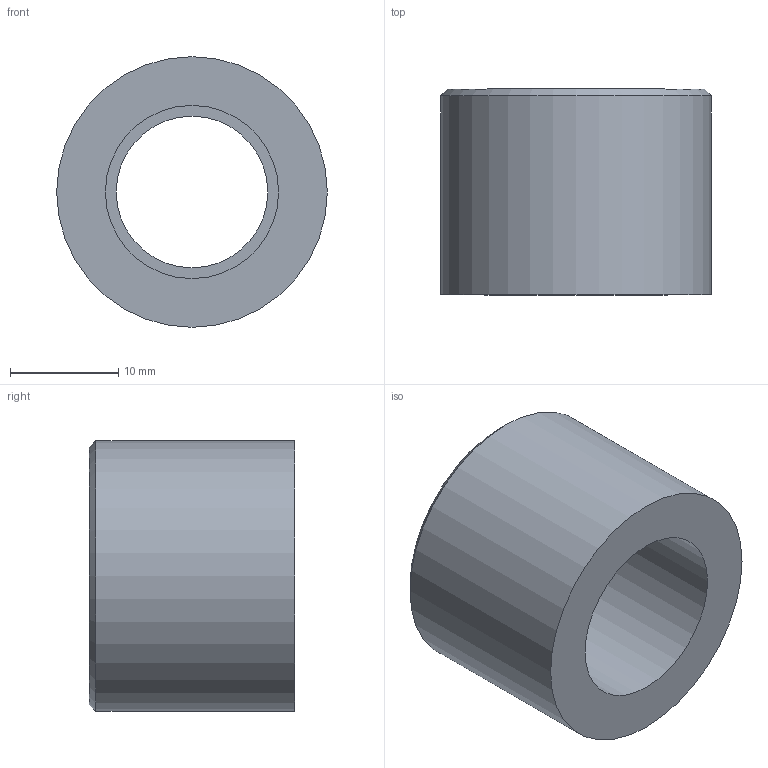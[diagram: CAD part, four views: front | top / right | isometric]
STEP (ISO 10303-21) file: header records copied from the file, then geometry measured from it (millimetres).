
FILE_DESCRIPTION(/* description */ ('PVC riduzione corta incollaggio metrica'),/* implementation_level */ '2;1');
FILE_NAME(/* name */ 'C:\Users\POLYPIPE\Desktop\DATASET INVENTOR\LIBRERIA EFFAST\RACCORDI 3DxWEB\RDR\3D_RDRRCD\3D_RDRRCD025A.stp',/* time_stamp */ '2018-01-19T15:28:36+01:00',/* author */ ('POLYPIPE'),/* organization */ ('Polypipe Italia s.r.l.'),/* preprocessor_version */ 'ST-DEVELOPER v16.1',/* originating_system */ 'Autodesk Inventor 2016',/* authorisation */ '');
FILE_SCHEMA (('CONFIG_CONTROL_DESIGN'));
Length unit declared in the file: millimetre
Products named in the file (1): 3D_RDRRCD
Bounding box: 25 x 19 x 25 mm (x, y, z)
Volume: 5479.4 mm3; surface area: 2992.1 mm2
Topology: 1 solids, 1 shells, 8 faces, 13 edges, 8 vertices
Faces by surface type: plane 3, cylinder 3, cone 2
Full cylindrical faces by diameter (mm): 14 x1, 16 x1, 25 x1
Entity records: 192 total; most frequent: DIRECTION 34, CARTESIAN_POINT 25, AXIS2_PLACEMENT_3D 17, EDGE_LOOP 16, ORIENTED_EDGE 16, FACE_BOUND 8, FACE_OUTER_BOUND 8, CIRCLE 8
